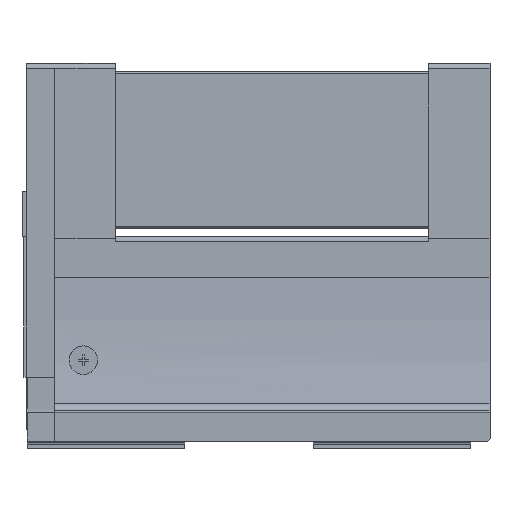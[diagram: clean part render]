
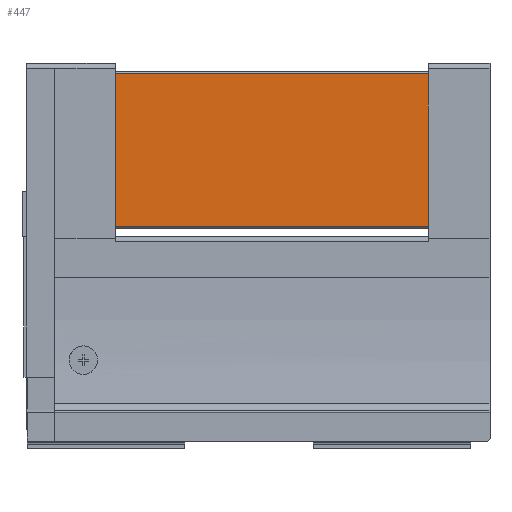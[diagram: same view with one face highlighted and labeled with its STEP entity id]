
A CAD part, left-side view. The second image highlights one B-rep face of the part: STEP entity #447.
In plain terms, the highlighted planar face has unit normal (-1, 0, 0).
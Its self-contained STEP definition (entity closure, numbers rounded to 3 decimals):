
#447 = ADVANCED_FACE ( 'NONE', ( #1033 ), #2296, .T. ) ;
#848 = EDGE_LOOP ( 'NONE', ( #3983, #4230, #4112, #4232 ) ) ;
#1033 = FACE_OUTER_BOUND ( 'NONE', #848, .T. ) ;
#1162 = LINE ( 'NONE', #2696, #1171 ) ;
#1171 = VECTOR ( 'NONE', #2702, 1000. ) ;
#1227 = LINE ( 'NONE', #2765, #1228 ) ;
#1228 = VECTOR ( 'NONE', #2766, 1000. ) ;
#1446 = VECTOR ( 'NONE', #3152, 1000. ) ;
#1454 = LINE ( 'NONE', #3151, #1446 ) ;
#1756 = LINE ( 'NONE', #3487, #1757 ) ;
#1757 = VECTOR ( 'NONE', #3488, 1000. ) ;
#2296 = PLANE ( 'NONE',  #4818 ) ;
#2299 = CARTESIAN_POINT ( 'NONE',  ( -9.6, 370., 174.798 ) ) ;
#2305 = DIRECTION ( 'NONE',  ( -1., 0., 0. ) ) ;
#2306 = DIRECTION ( 'NONE',  ( 0., 0., -1. ) ) ;
#2458 = CARTESIAN_POINT ( 'NONE',  ( -9.6, 35.3, 87.298 ) ) ;
#2534 = CARTESIAN_POINT ( 'NONE',  ( -9.6, 214.3, 87.298 ) ) ;
#2552 = CARTESIAN_POINT ( 'NONE',  ( -9.6, 35.3, 174.798 ) ) ;
#2696 = CARTESIAN_POINT ( 'NONE',  ( -9.6, 370., 87.298 ) ) ;
#2702 = DIRECTION ( 'NONE',  ( 0., -1., 0. ) ) ;
#2765 = CARTESIAN_POINT ( 'NONE',  ( -9.6, 214.3, 174.798 ) ) ;
#2766 = DIRECTION ( 'NONE',  ( 0., 0., -1. ) ) ;
#3151 = CARTESIAN_POINT ( 'NONE',  ( -9.6, 35.3, 174.798 ) ) ;
#3152 = DIRECTION ( 'NONE',  ( 0., 0., -1. ) ) ;
#3487 = CARTESIAN_POINT ( 'NONE',  ( -9.6, 370., 174.798 ) ) ;
#3488 = DIRECTION ( 'NONE',  ( 0., -1., 0. ) ) ;
#3748 = CARTESIAN_POINT ( 'NONE',  ( -9.6, 214.3, 174.798 ) ) ;
#3830 = VERTEX_POINT ( 'NONE', #2458 ) ;
#3915 = VERTEX_POINT ( 'NONE', #2534 ) ;
#3932 = VERTEX_POINT ( 'NONE', #2552 ) ;
#3983 = ORIENTED_EDGE ( 'NONE', *, *, #4395, .T. ) ;
#4112 = ORIENTED_EDGE ( 'NONE', *, *, #4581, .F. ) ;
#4230 = ORIENTED_EDGE ( 'NONE', *, *, #4348, .T. ) ;
#4232 = ORIENTED_EDGE ( 'NONE', *, *, #4819, .F. ) ;
#4348 = EDGE_CURVE ( 'NONE', #3915, #3830, #1162, .T. ) ;
#4395 = EDGE_CURVE ( 'NONE', #5008, #3915, #1227, .T. ) ;
#4581 = EDGE_CURVE ( 'NONE', #3932, #3830, #1454, .T. ) ;
#4818 = AXIS2_PLACEMENT_3D ( 'NONE', #2299, #2305, #2306 ) ;
#4819 = EDGE_CURVE ( 'NONE', #5008, #3932, #1756, .T. ) ;
#5008 = VERTEX_POINT ( 'NONE', #3748 ) ;
